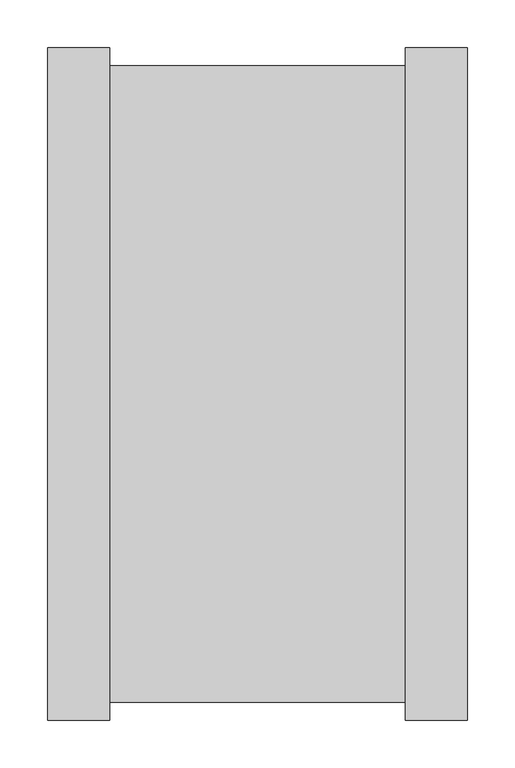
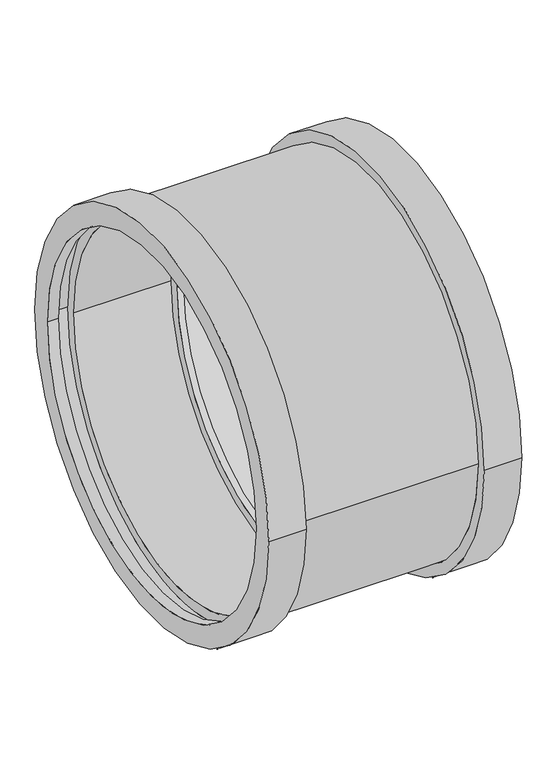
"""IFC4 building model written with IfcOpenShell, lengths in millimetres: pipe fitting geometry, AWADUKT PP Union DSM : Blue No PID."""

from ifc_helpers import new_model, si_unit, frame, origin, place, context, project, spatial, polyline, circle_curve, source, transform, mapped, element, save
from ifc_brep_helpers import plane_surface, cylinder_surface, revolved_surface, advanced_brep


def pipe_fitting_366f8f33(model_context):
    return source(origin(), model_context, "Body", "AdvancedBrep", [
        advanced_brep(
        [(-169.05, -315.0, 0.0), (-169.05, 315.0, 0.0), (0.0, 315.0, 0.0), (0.0, -315.0, 0.0), (-195.95, -334.05, 0.0), (-195.95, 334.05, 0.0), (-169.05, 334.05, 0.0), (-169.05, -334.05, 0.0), (-215.0, -315.0, 0.0), (-215.0, 315.0, 0.0), (-195.95, 315.0, 0.0), (-195.95, -315.0, 0.0), (-150.0, -353.1, 0.0), (-150.0, 353.1, 0.0), (-215.0, 353.1, 0.0), (-215.0, -353.1, 0.0), (161.0, -334.05, 0.0), (161.0, 334.05, 0.0), (-150.0, 334.05, 0.0), (-150.0, -334.05, 0.0), (226.0, -353.1, 0.0), (226.0, 353.1, 0.0), (161.0, 353.1, 0.0), (161.0, -353.1, 0.0), (206.95, -315.0, 0.0), (206.95, 315.0, 0.0), (226.0, 315.0, 0.0), (226.0, -315.0, 0.0), (180.05, -334.05, 0.0), (180.05, 334.05, 0.0), (206.95, 334.05, 0.0), (206.95, -334.05, 0.0), (11.0, -315.0, 0.0), (11.0, 315.0, 0.0), (180.05, 315.0, 0.0), (180.05, -315.0, 0.0), (0.0, -295.95, 0.0), (0.0, 295.95, 0.0), (11.0, 295.95, 0.0), (11.0, -295.95, 0.0)],
        [
            (0, 1, circle_curve(frame((-169.05, 0.0, 0.0), z_axis=(-1.0, 0.0, 0.0), x_axis=(0.0, 1.0, 0.0)), 315.0)),
            (1, 2),
            (2, 3, circle_curve(frame((0.0, 0.0, 0.0), z_axis=(1.0, 0.0, 0.0), x_axis=(0.0, 1.0, 0.0)), 315.0)),
            (3, 0),
            (4, 5, circle_curve(frame((-195.95, 0.0, 0.0), z_axis=(-1.0, 0.0, 0.0), x_axis=(0.0, 1.0, 0.0)), 334.05)),
            (5, 6),
            (6, 7, circle_curve(frame((-169.05, 0.0, 0.0), z_axis=(1.0, 0.0, 0.0), x_axis=(0.0, 1.0, 0.0)), 334.05)),
            (7, 4),
            (8, 9, circle_curve(frame((-215.0, 0.0, 0.0), z_axis=(-1.0, 0.0, 0.0), x_axis=(0.0, 1.0, 0.0)), 315.0)),
            (9, 10),
            (10, 11, circle_curve(frame((-195.95, 0.0, 0.0), z_axis=(1.0, 0.0, 0.0), x_axis=(0.0, 1.0, 0.0)), 315.0)),
            (11, 8),
            (12, 13, circle_curve(frame((-150.0, 0.0, 0.0), z_axis=(-1.0, 0.0, 0.0), x_axis=(0.0, 1.0, 0.0)), 353.1)),
            (13, 14),
            (14, 15, circle_curve(frame((-215.0, 0.0, 0.0), z_axis=(1.0, 0.0, 0.0), x_axis=(0.0, 1.0, 0.0)), 353.1)),
            (15, 12),
            (16, 17, circle_curve(frame((161.0, 0.0, 0.0), z_axis=(-1.0, 0.0, 0.0), x_axis=(0.0, 1.0, 0.0)), 334.05)),
            (17, 18),
            (18, 19, circle_curve(frame((-150.0, 0.0, 0.0), z_axis=(1.0, 0.0, 0.0), x_axis=(0.0, 1.0, 0.0)), 334.05)),
            (19, 16),
            (20, 21, circle_curve(frame((226.0, 0.0, 0.0), z_axis=(-1.0, 0.0, 0.0), x_axis=(0.0, 1.0, 0.0)), 353.1)),
            (21, 22),
            (22, 23, circle_curve(frame((161.0, 0.0, 0.0), z_axis=(1.0, 0.0, 0.0), x_axis=(0.0, 1.0, 0.0)), 353.1)),
            (23, 20),
            (24, 25, circle_curve(frame((206.95, 0.0, 0.0), z_axis=(-1.0, 0.0, 0.0), x_axis=(0.0, 1.0, 0.0)), 315.0)),
            (25, 26),
            (26, 27, circle_curve(frame((226.0, 0.0, 0.0), z_axis=(1.0, 0.0, 0.0), x_axis=(0.0, 1.0, 0.0)), 315.0)),
            (27, 24),
            (28, 29, circle_curve(frame((180.05, 0.0, 0.0), z_axis=(-1.0, 0.0, 0.0), x_axis=(0.0, 1.0, 0.0)), 334.05)),
            (29, 30),
            (30, 31, circle_curve(frame((206.95, 0.0, 0.0), z_axis=(1.0, 0.0, 0.0), x_axis=(0.0, 1.0, 0.0)), 334.05)),
            (31, 28),
            (32, 33, circle_curve(frame((11.0, 0.0, 0.0), z_axis=(-1.0, 0.0, 0.0), x_axis=(0.0, 1.0, 0.0)), 315.0)),
            (33, 34),
            (34, 35, circle_curve(frame((180.05, 0.0, 0.0), z_axis=(1.0, 0.0, 0.0), x_axis=(0.0, 1.0, 0.0)), 315.0)),
            (35, 32),
            (36, 37, circle_curve(frame((0.0, 0.0, 0.0), z_axis=(-1.0, 0.0, 0.0), x_axis=(0.0, 1.0, 0.0)), 295.95)),
            (37, 38),
            (38, 39, circle_curve(frame((11.0, 0.0, 0.0), z_axis=(1.0, 0.0, 0.0), x_axis=(0.0, 1.0, 0.0)), 295.95)),
            (39, 36),
            (1, 0, circle_curve(frame((-169.05, 0.0, 0.0), z_axis=(-1.0, 0.0, 0.0), x_axis=(0.0, -1.0, 0.0)), 315.0)),
            (3, 2, circle_curve(frame((0.0, 0.0, 0.0), z_axis=(1.0, 0.0, 0.0), x_axis=(0.0, -1.0, 0.0)), 315.0)),
            (6, 7, circle_curve(frame((-169.05, 0.0, 0.0), z_axis=(-1.0, 0.0, 0.0), x_axis=(0.0, -1.0, 0.0)), 334.05)),
            (5, 4, circle_curve(frame((-195.95, 0.0, 0.0), z_axis=(-1.0, 0.0, 0.0), x_axis=(0.0, -1.0, 0.0)), 334.05)),
            (10, 11, circle_curve(frame((-195.95, 0.0, 0.0), z_axis=(-1.0, 0.0, 0.0), x_axis=(0.0, -1.0, 0.0)), 315.0)),
            (9, 8, circle_curve(frame((-215.0, 0.0, 0.0), z_axis=(-1.0, 0.0, 0.0), x_axis=(0.0, -1.0, 0.0)), 315.0)),
            (14, 15, circle_curve(frame((-215.0, 0.0, 0.0), z_axis=(-1.0, 0.0, 0.0), x_axis=(0.0, -1.0, 0.0)), 353.1)),
            (13, 12, circle_curve(frame((-150.0, 0.0, 0.0), z_axis=(-1.0, 0.0, 0.0), x_axis=(0.0, -1.0, 0.0)), 353.1)),
            (18, 19, circle_curve(frame((-150.0, 0.0, 0.0), z_axis=(-1.0, 0.0, 0.0), x_axis=(0.0, -1.0, 0.0)), 334.05)),
            (17, 16, circle_curve(frame((161.0, 0.0, 0.0), z_axis=(-1.0, 0.0, 0.0), x_axis=(0.0, -1.0, 0.0)), 334.05)),
            (22, 23, circle_curve(frame((161.0, 0.0, 0.0), z_axis=(-1.0, 0.0, 0.0), x_axis=(0.0, -1.0, 0.0)), 353.1)),
            (21, 20, circle_curve(frame((226.0, 0.0, 0.0), z_axis=(-1.0, 0.0, 0.0), x_axis=(0.0, -1.0, 0.0)), 353.1)),
            (26, 27, circle_curve(frame((226.0, 0.0, 0.0), z_axis=(-1.0, 0.0, 0.0), x_axis=(0.0, -1.0, 0.0)), 315.0)),
            (25, 24, circle_curve(frame((206.95, 0.0, 0.0), z_axis=(-1.0, 0.0, 0.0), x_axis=(0.0, -1.0, 0.0)), 315.0)),
            (30, 31, circle_curve(frame((206.95, 0.0, 0.0), z_axis=(-1.0, 0.0, 0.0), x_axis=(0.0, -1.0, 0.0)), 334.05)),
            (29, 28, circle_curve(frame((180.05, 0.0, 0.0), z_axis=(-1.0, 0.0, 0.0), x_axis=(0.0, -1.0, 0.0)), 334.05)),
            (34, 35, circle_curve(frame((180.05, 0.0, 0.0), z_axis=(-1.0, 0.0, 0.0), x_axis=(0.0, -1.0, 0.0)), 315.0)),
            (33, 32, circle_curve(frame((11.0, 0.0, 0.0), z_axis=(-1.0, 0.0, 0.0), x_axis=(0.0, -1.0, 0.0)), 315.0)),
            (38, 39, circle_curve(frame((11.0, 0.0, 0.0), z_axis=(-1.0, 0.0, 0.0), x_axis=(0.0, -1.0, 0.0)), 295.95)),
            (37, 36, circle_curve(frame((0.0, 0.0, 0.0), z_axis=(-1.0, 0.0, 0.0), x_axis=(0.0, -1.0, 0.0)), 295.95)),
        ],
        [
            revolved_surface(polyline([(0.0, 315.0, 0.0), (-169.05, 315.0, 0.0)]), (5.5, 0.0, 0.0), (1.0, 0.0, 0.0)),
            revolved_surface(polyline([(-169.05, 334.05, 0.0), (-195.95, 334.05, 0.0)]), (5.5, 0.0, 0.0), (1.0, 0.0, 0.0)),
            revolved_surface(polyline([(-195.95, 315.0, 0.0), (-215.0, 315.0, 0.0)]), (5.5, 0.0, 0.0), (1.0, 0.0, 0.0)),
            cylinder_surface(frame((5.5, 0.0, 0.0), z_axis=(1.0, 0.0, 0.0), x_axis=(0.0, 1.0, 0.0)), 353.1),
            cylinder_surface(frame((5.5, 0.0, 0.0), z_axis=(1.0, 0.0, 0.0), x_axis=(0.0, 1.0, 0.0)), 334.05),
            revolved_surface(polyline([(226.0, 315.0, 0.0), (206.95, 315.0, 0.0)]), (5.5, 0.0, 0.0), (1.0, 0.0, 0.0)),
            revolved_surface(polyline([(206.95, 334.05, 0.0), (180.05, 334.05, 0.0)]), (5.5, 0.0, 0.0), (1.0, 0.0, 0.0)),
            revolved_surface(polyline([(180.05, 315.0, 0.0), (11.0, 315.0, 0.0)]), (5.5, 0.0, 0.0), (1.0, 0.0, 0.0)),
            revolved_surface(polyline([(11.0, 295.95, 0.0), (0.0, 295.95, 0.0)]), (5.5, 0.0, 0.0), (1.0, 0.0, 0.0)),
            revolved_surface(polyline([(0.0, -315.0, 0.0), (-169.05, -315.0, 0.0)]), (5.5, 0.0, 0.0), (1.0, 0.0, 0.0)),
            plane_surface(frame((-169.05, 0.0, 0.0), z_axis=(-1.0, 0.0, 0.0), x_axis=(0.0, -1.0, 0.0))),
            revolved_surface(polyline([(-169.05, -334.05, 0.0), (-195.95, -334.05, 0.0)]), (5.5, 0.0, 0.0), (1.0, 0.0, 0.0)),
            plane_surface(frame((-195.95, 0.0, 0.0), z_axis=(1.0, 0.0, 0.0), x_axis=(0.0, -1.0, 0.0))),
            revolved_surface(polyline([(-195.95, -315.0, 0.0), (-215.0, -315.0, 0.0)]), (5.5, 0.0, 0.0), (1.0, 0.0, 0.0)),
            plane_surface(frame((-215.0, 0.0, 0.0), z_axis=(-1.0, 0.0, 0.0), x_axis=(0.0, -1.0, 0.0))),
            cylinder_surface(frame((5.5, 0.0, 0.0), z_axis=(1.0, 0.0, 0.0), x_axis=(0.0, -1.0, 0.0)), 353.1),
            plane_surface(frame((-150.0, 0.0, 0.0), z_axis=(1.0, 0.0, 0.0), x_axis=(0.0, -1.0, 0.0))),
            cylinder_surface(frame((5.5, 0.0, 0.0), z_axis=(1.0, 0.0, 0.0), x_axis=(0.0, -1.0, 0.0)), 334.05),
            plane_surface(frame((161.0, 0.0, 0.0), z_axis=(-1.0, 0.0, 0.0), x_axis=(0.0, -1.0, 0.0))),
            plane_surface(frame((226.0, 0.0, 0.0), z_axis=(1.0, 0.0, 0.0), x_axis=(0.0, -1.0, 0.0))),
            revolved_surface(polyline([(226.0, -315.0, 0.0), (206.95, -315.0, 0.0)]), (5.5, 0.0, 0.0), (1.0, 0.0, 0.0)),
            plane_surface(frame((206.95, 0.0, 0.0), z_axis=(-1.0, 0.0, 0.0), x_axis=(0.0, -1.0, 0.0))),
            revolved_surface(polyline([(206.95, -334.05, 0.0), (180.05, -334.05, 0.0)]), (5.5, 0.0, 0.0), (1.0, 0.0, 0.0)),
            plane_surface(frame((180.05, 0.0, 0.0), z_axis=(1.0, 0.0, 0.0), x_axis=(0.0, -1.0, 0.0))),
            revolved_surface(polyline([(180.05, -315.0, 0.0), (11.0, -315.0, 0.0)]), (5.5, 0.0, 0.0), (1.0, 0.0, 0.0)),
            plane_surface(frame((11.0, 0.0, 0.0), z_axis=(1.0, 0.0, 0.0), x_axis=(0.0, -1.0, 0.0))),
            revolved_surface(polyline([(11.0, -295.95, 0.0), (0.0, -295.95, 0.0)]), (5.5, 0.0, 0.0), (1.0, 0.0, 0.0)),
            plane_surface(frame((0.0, 0.0, 0.0), z_axis=(-1.0, 0.0, 0.0), x_axis=(0.0, -1.0, 0.0))),
        ],
        [
            (0, [[1, 2, 3, 4]]),
            (1, [[5, 6, 7, 8]]),
            (2, [[9, 10, 11, 12]]),
            (3, [[13, 14, 15, 16]]),
            (4, [[17, 18, 19, 20]]),
            (3, [[21, 22, 23, 24]]),
            (5, [[25, 26, 27, 28]]),
            (6, [[29, 30, 31, 32]]),
            (7, [[33, 34, 35, 36]]),
            (8, [[37, 38, 39, 40]]),
            (9, [[41, -4, 42, -2]]),
            (10, [[43, -7], [-41, -1]]),
            (11, [[44, -8, -43, -6]]),
            (12, [[-44, -5], [45, -11]]),
            (13, [[46, -12, -45, -10]]),
            (14, [[47, -15], [-46, -9]]),
            (15, [[48, -16, -47, -14]]),
            (16, [[-48, -13], [49, -19]]),
            (17, [[50, -20, -49, -18]]),
            (18, [[51, -23], [-50, -17]]),
            (15, [[52, -24, -51, -22]]),
            (19, [[-52, -21], [53, -27]]),
            (20, [[54, -28, -53, -26]]),
            (21, [[55, -31], [-54, -25]]),
            (22, [[56, -32, -55, -30]]),
            (23, [[-56, -29], [57, -35]]),
            (24, [[58, -36, -57, -34]]),
            (25, [[-58, -33], [59, -39]]),
            (26, [[60, -40, -59, -38]]),
            (27, [[-42, -3], [-60, -37]]),
        ],
    ),
    ])


if __name__ == "__main__":
    model = new_model("IFC4")
    model_context = context("Model", 3, world=origin())
    ifc_project = project(units=[si_unit("LENGTHUNIT", "METRE", prefix="MILLI")], contexts=[model_context])
    site = spatial("IfcSite", under=ifc_project)
    building = spatial("IfcBuilding", under=site)
    placement = place(None, origin())
    pipe_fitting_shape = pipe_fitting_366f8f33(model_context)
    element("IfcPipeFitting", 1, ObjectType="AWADUKT PP Union DSM : Blue No PID", at=placement, inside=building, context=model_context, shape_type="MappedRepresentation", body=[
        mapped(pipe_fitting_shape, transform((0.0, 0.0, 0.0), x_axis=(1.0, 0.0, 0.0), y_axis=(0.0, 1.0, 0.0), z_axis=(0.0, 0.0, 1.0))),
    ])
    save(model, "model.ifc")
